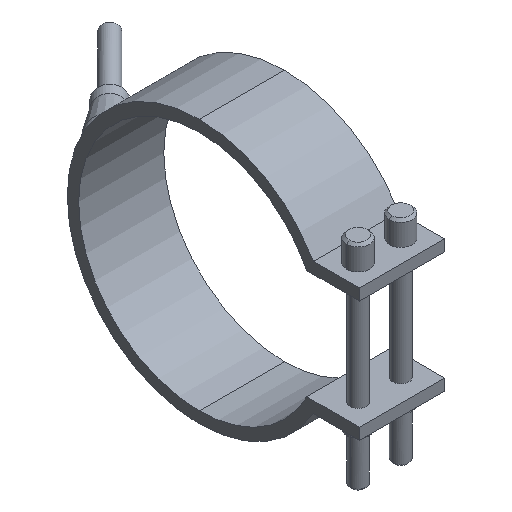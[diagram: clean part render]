
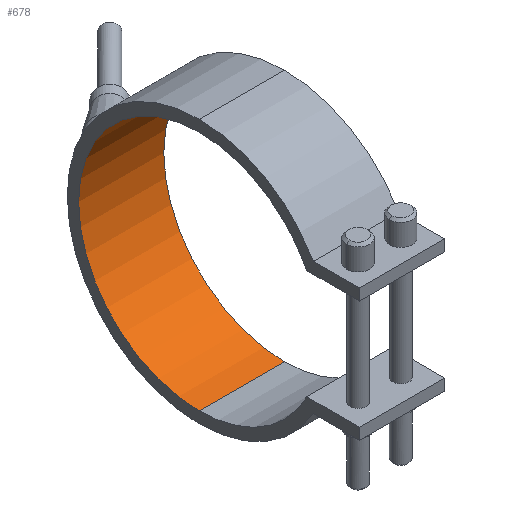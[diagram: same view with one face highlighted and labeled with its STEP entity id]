
A CAD part, isometric view. The second image highlights one B-rep face of the part: STEP entity #678.
In plain terms, the highlighted cylindrical face has radius 42.5 mm (diameter 85 mm), a partial arc.
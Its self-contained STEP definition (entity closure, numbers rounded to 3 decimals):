
#348=CARTESIAN_POINT('Vertex',(15.,0.,42.5)) ;
#353=CARTESIAN_POINT('Axis2P3D Location',(15.,0.,0.)) ;
#357=CARTESIAN_POINT('Vertex',(15.,0.,-42.5)) ;
#464=CARTESIAN_POINT('Vertex',(-15.,0.,-42.5)) ;
#467=CARTESIAN_POINT('Axis2P3D Location',(-15.,0.,0.)) ;
#471=CARTESIAN_POINT('Vertex',(-15.,0.,42.5)) ;
#650=CARTESIAN_POINT('Line Origine',(15.,0.,42.5)) ;
#662=CARTESIAN_POINT('Axis2P3D Location',(15.,0.,0.)) ;
#667=CARTESIAN_POINT('Line Origine',(15.,0.,-42.5)) ;
#354=DIRECTION('Axis2P3D Direction',(1.,0.,0.)) ;
#468=DIRECTION('Axis2P3D Direction',(1.,0.,0.)) ;
#651=DIRECTION('Vector Direction',(1.,0.,0.)) ;
#663=DIRECTION('Axis2P3D Direction',(1.,0.,-0.)) ;
#664=DIRECTION('Axis2P3D XDirection',(0.,0.,-1.)) ;
#668=DIRECTION('Vector Direction',(1.,0.,0.)) ;
#355=AXIS2_PLACEMENT_3D('Circle Axis2P3D',#353,#354,$) ;
#469=AXIS2_PLACEMENT_3D('Circle Axis2P3D',#467,#468,$) ;
#665=AXIS2_PLACEMENT_3D('Cylinder Axis2P3D',#662,#663,#664) ;
#673=ORIENTED_EDGE('',*,*,#359,.T.) ;
#674=ORIENTED_EDGE('',*,*,#654,.T.) ;
#675=ORIENTED_EDGE('',*,*,#473,.F.) ;
#676=ORIENTED_EDGE('',*,*,#671,.T.) ;
#652=VECTOR('Line Direction',#651,1.) ;
#669=VECTOR('Line Direction',#668,1.) ;
#678=ADVANCED_FACE('29085030',(#677),#666,.F.) ;
#356=CIRCLE('generated circle',#355,42.5) ;
#470=CIRCLE('generated circle',#469,42.5) ;
#666=CYLINDRICAL_SURFACE('generated cylinder',#665,42.5) ;
#359=EDGE_CURVE('',#358,#349,#356,.T.) ;
#473=EDGE_CURVE('',#465,#472,#470,.T.) ;
#654=EDGE_CURVE('',#349,#472,#653,.F.) ;
#671=EDGE_CURVE('',#465,#358,#670,.T.) ;
#672=EDGE_LOOP('',(#673,#674,#675,#676)) ;
#677=FACE_OUTER_BOUND('',#672,.T.) ;
#653=LINE('Line',#650,#652) ;
#670=LINE('Line',#667,#669) ;
#349=VERTEX_POINT('',#348) ;
#358=VERTEX_POINT('',#357) ;
#465=VERTEX_POINT('',#464) ;
#472=VERTEX_POINT('',#471) ;
